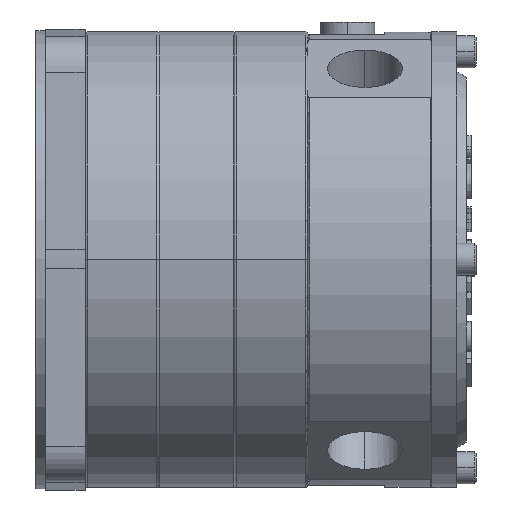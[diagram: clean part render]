
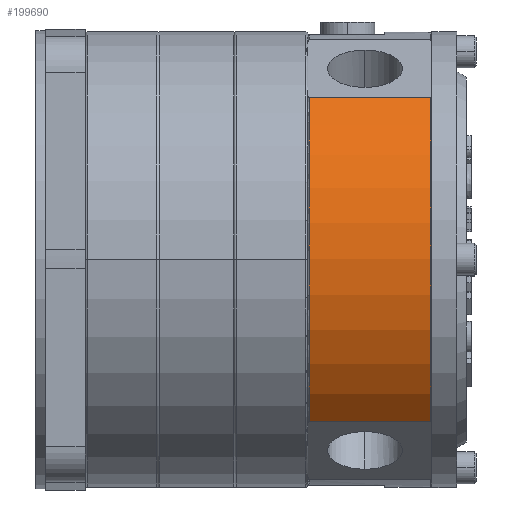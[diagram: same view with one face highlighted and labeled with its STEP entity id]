
A CAD part, top view. The second image highlights one B-rep face of the part: STEP entity #199690.
In plain terms, the highlighted cylindrical face has radius 92 mm (diameter 184 mm), a partial arc.
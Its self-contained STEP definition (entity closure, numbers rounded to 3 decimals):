
#116100=CARTESIAN_POINT('',(87.,65.425,-64.681));
#116110=VERTEX_POINT('',#116100);
#116160=CARTESIAN_POINT('',(111.5,65.425,-64.681));
#116170=DIRECTION('',(1.,0.,0.));
#116180=VECTOR('',#116170,1.);
#116190=LINE('',#116160,#116180);
#116200=CARTESIAN_POINT('',(136.,65.425,-64.681));
#116210=VERTEX_POINT('',#116200);
#116220=EDGE_CURVE('',#116110,#116210,#116190,.T.);
#124570=CARTESIAN_POINT('',(136.,-65.425,-64.681));
#124580=VERTEX_POINT('',#124570);
#124610=CARTESIAN_POINT('',(111.5,-65.425,-64.681));
#124620=DIRECTION('',(1.,0.,0.));
#124630=VECTOR('',#124620,1.);
#124640=LINE('',#124610,#124630);
#124650=CARTESIAN_POINT('',(87.,-65.425,-64.681));
#124660=VERTEX_POINT('',#124650);
#124670=EDGE_CURVE('',#124660,#124580,#124640,.T.);
#132590=CARTESIAN_POINT('',(111.5,0.,
0.));
#132600=DIRECTION('',(1.,0.,0.));
#132610=DIRECTION('',(0.,0.,1.));
#132620=AXIS2_PLACEMENT_3D('',#132590,#132600,#132610);
#132630=CYLINDRICAL_SURFACE('',#132620,92.);
#199450=CARTESIAN_POINT('',(136.,0.,
0.));
#199460=DIRECTION('',(-1.,0.,0.));
#199470=DIRECTION('',(0.,0.,1.));
#199480=AXIS2_PLACEMENT_3D('',#199450,#199460,#199470);
#199490=CIRCLE('',#199480,92.);
#199500=EDGE_CURVE('',#116210,#124580,#199490,.T.);
#199570=ORIENTED_EDGE('',*,*,#124670,.F.);
#199580=ORIENTED_EDGE('',*,*,#199500,.T.);
#199590=ORIENTED_EDGE('',*,*,#116220,.T.);
#199600=CARTESIAN_POINT('',(87.,0.,
0.));
#199610=DIRECTION('',(-1.,0.,0.));
#199620=DIRECTION('',(0.,0.,1.));
#199630=AXIS2_PLACEMENT_3D('',#199600,#199610,#199620);
#199640=CIRCLE('',#199630,92.);
#199650=EDGE_CURVE('',#116110,#124660,#199640,.T.);
#199660=ORIENTED_EDGE('',*,*,#199650,.F.);
#199670=EDGE_LOOP('',(#199660,#199590,#199580,#199570));
#199680=FACE_OUTER_BOUND('',#199670,.T.);
#199690=ADVANCED_FACE('',(#199680),#132630,.T.);
